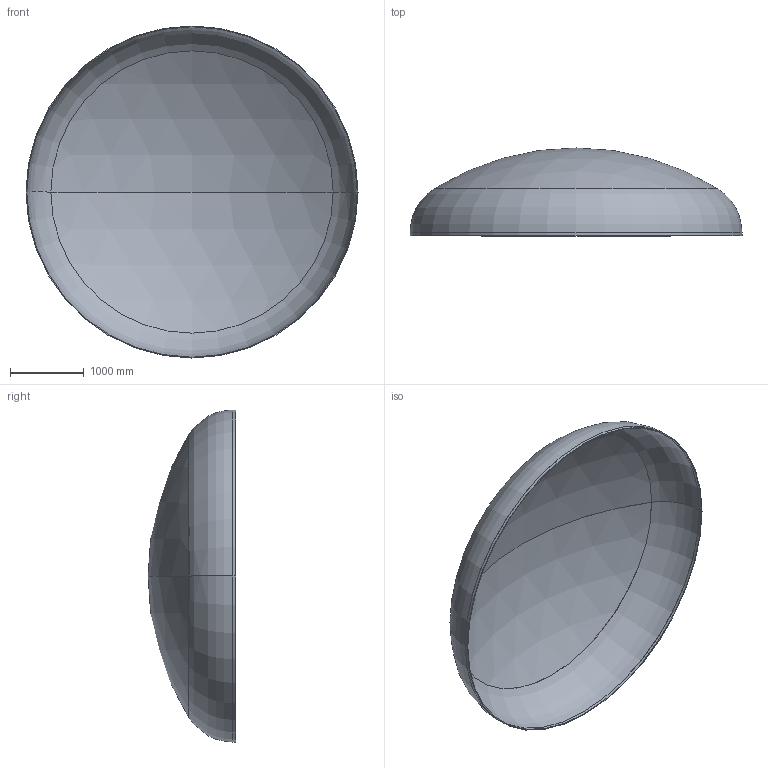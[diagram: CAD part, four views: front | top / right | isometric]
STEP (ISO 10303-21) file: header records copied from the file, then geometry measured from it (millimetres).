
FILE_DESCRIPTION (( 'STEP AP203' ), '1' );
FILE_NAME ('DIN 28013 Korbbogenform_-_Boden DIN 28013 - 4500 x 40 - I - s=11.step', '2016-07-01T23:02:06', ( '' ), ( '' ), 'SwSTEP 2.0', 'SolidWorks 2013', '' );
FILE_SCHEMA (( 'CONFIG_CONTROL_DESIGN' ));
Length unit declared in the file: millimetre
Products named in the file (1): DIN 28013 Korbbogenform_-_Boden DIN 28013 - 4500 x 40 - I - s=11
Bounding box: 4500 x 1190.29 x 4500 mm (x, y, z)
Volume: 247878107.8 mm3; surface area: 45224110.6 mm2
Topology: 1 solids, 1 shells, 13 faces, 24 edges, 14 vertices
Faces by surface type: torus 4, cylinder 4, sphere 4, plane 1
Entity records: 407 total; most frequent: DIRECTION 72, CARTESIAN_POINT 52, ORIENTED_EDGE 48, AXIS2_PLACEMENT_3D 34, EDGE_CURVE 24, CIRCLE 20, VERTEX_POINT 14, EDGE_LOOP 14
